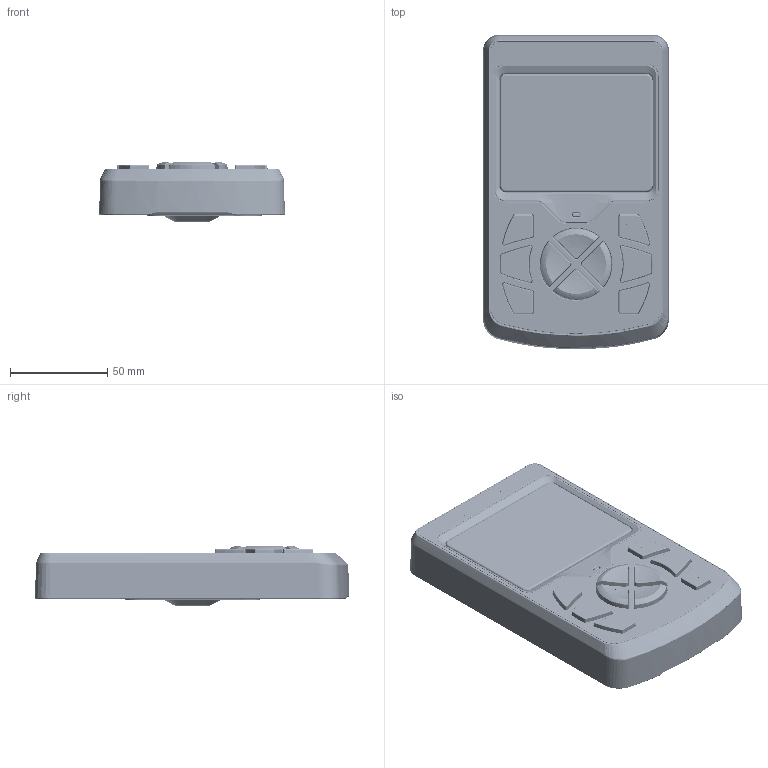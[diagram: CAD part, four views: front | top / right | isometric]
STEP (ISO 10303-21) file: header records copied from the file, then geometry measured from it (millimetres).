
FILE_DESCRIPTION (( 'STEP AP214' ), '1' );
FILE_NAME ('HMI-Aucom-3.5.STEP', '2023-03-06T02:33:16', ( '' ), ( '' ), 'SwSTEP 2.0', 'SolidWorks 2019', '' );
FILE_SCHEMA (( 'AUTOMOTIVE_DESIGN' ));
Length unit declared in the file: millimetre
Products named in the file (1): HMI-Aucom-3.5
Bounding box: 95.39 x 161.23 x 30.47 mm (x, y, z)
Volume: 148645.6 mm3; surface area: 234589.4 mm2
Topology: 54 solids, 54 shells, 13637 faces, 33674 edges, 20401 vertices
Faces by surface type: plane 4103, cylinder 3458, bspline 2381, torus 1959, cone 1265, sphere 471
Entity records: 648532 total; most frequent: CARTESIAN_POINT 194622, ORIENTED_EDGE 66874, DIRECTION 59571, EDGE_CURVE 33437, AXIS2_PLACEMENT_3D 22544, VERTEX_POINT 20385, VECTOR 14483, LINE 14483
